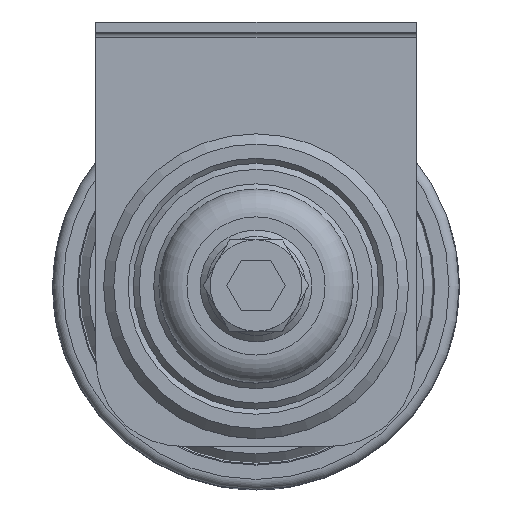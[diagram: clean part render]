
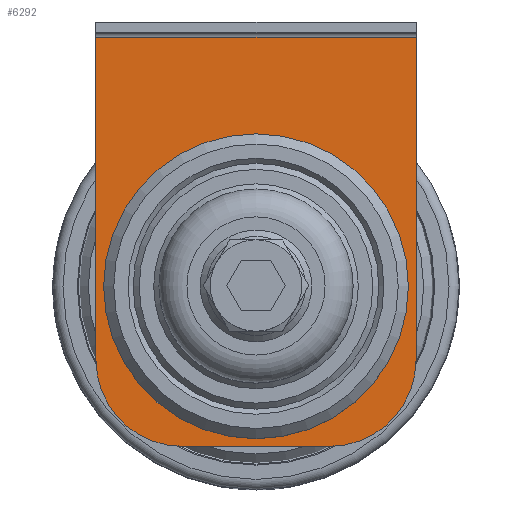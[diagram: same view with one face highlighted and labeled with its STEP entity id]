
A CAD part, top view. The second image highlights one B-rep face of the part: STEP entity #6292.
In plain terms, the highlighted planar face has unit normal (0, 0, 1) as drawn and (-1, 0, 0) by its records, which use the part's own axes.
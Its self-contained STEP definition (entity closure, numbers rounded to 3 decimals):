
#6198=CARTESIAN_POINT('',(21.0,3.,0.0));
#6199=VERTEX_POINT('',#6198);
#6207=CARTESIAN_POINT('',(21.0,3.,-63.));
#6208=VERTEX_POINT('',#6207);
#6209=CARTESIAN_POINT('',(21.0,3.,0.0));
#6210=DIRECTION('',(0.0,0.0,-1.0));
#6211=VECTOR('',#6210,63.);
#6212=LINE('',#6209,#6211);
#6213=EDGE_CURVE('',#6199,#6208,#6212,.T.);
#6233=CARTESIAN_POINT('',(21.,83.5,0.0));
#6234=DIRECTION('',(-1.0,0.0,0.0));
#6235=DIRECTION('',(0.0,0.0,1.0));
#6236=AXIS2_PLACEMENT_3D('',#6233,#6234,#6235);
#6237=PLANE('',#6236);
#6238=ORIENTED_EDGE('',*,*,#6213,.F.);
#6239=CARTESIAN_POINT('',(21.,66.5,0.0));
#6240=VERTEX_POINT('',#6239);
#6241=CARTESIAN_POINT('',(21.,66.5,0.0));
#6242=DIRECTION('',(0.0,-1.0,0.0));
#6243=VECTOR('',#6242,63.5);
#6244=LINE('',#6241,#6243);
#6245=EDGE_CURVE('',#6240,#6199,#6244,.T.);
#6246=ORIENTED_EDGE('',*,*,#6245,.F.);
#6247=CARTESIAN_POINT('',(21.,83.5,-17.0));
#6248=VERTEX_POINT('',#6247);
#6249=CARTESIAN_POINT('',(21.,66.5,-17.0));
#6250=DIRECTION('',(1.0,0.0,0.0));
#6251=DIRECTION('',(0.0,0.707,0.707));
#6252=AXIS2_PLACEMENT_3D('',#6249,#6250,#6251);
#6253=CIRCLE('',#6252,17.);
#6254=EDGE_CURVE('',#6248,#6240,#6253,.T.);
#6255=ORIENTED_EDGE('',*,*,#6254,.F.);
#6256=CARTESIAN_POINT('',(21.,83.5,-46.));
#6257=VERTEX_POINT('',#6256);
#6258=CARTESIAN_POINT('',(21.,83.5,-17.0));
#6259=DIRECTION('',(0.0,0.0,-1.0));
#6260=VECTOR('',#6259,29.);
#6261=LINE('',#6258,#6260);
#6262=EDGE_CURVE('',#6248,#6257,#6261,.T.);
#6263=ORIENTED_EDGE('',*,*,#6262,.T.);
#6264=CARTESIAN_POINT('',(21.,66.5,-63.));
#6265=VERTEX_POINT('',#6264);
#6266=CARTESIAN_POINT('',(21.,66.5,-46.));
#6267=DIRECTION('',(1.,0.0,0.0));
#6268=DIRECTION('',(0.0,0.707,-0.707));
#6269=AXIS2_PLACEMENT_3D('',#6266,#6267,#6268);
#6270=CIRCLE('',#6269,17.);
#6271=EDGE_CURVE('',#6265,#6257,#6270,.T.);
#6272=ORIENTED_EDGE('',*,*,#6271,.F.);
#6273=CARTESIAN_POINT('',(21.,66.5,-63.));
#6274=DIRECTION('',(0.0,-1.0,0.0));
#6275=VECTOR('',#6274,63.5);
#6276=LINE('',#6273,#6275);
#6277=EDGE_CURVE('',#6265,#6208,#6276,.T.);
#6278=ORIENTED_EDGE('',*,*,#6277,.T.);
#6279=EDGE_LOOP('',(#6238,#6246,#6255,#6263,#6272,#6278));
#6280=FACE_OUTER_BOUND('',#6279,.T.);
#6281=CARTESIAN_POINT('',(21.,52.0,-6.5));
#6282=VERTEX_POINT('',#6281);
#6283=CARTESIAN_POINT('',(21.,52.0,-31.5));
#6284=DIRECTION('',(1.0,0.0,0.0));
#6285=DIRECTION('',(0.0,0.0,-1.0));
#6286=AXIS2_PLACEMENT_3D('',#6283,#6284,#6285);
#6287=CIRCLE('',#6286,25.0);
#6288=EDGE_CURVE('',#6282,#6282,#6287,.T.);
#6289=ORIENTED_EDGE('',*,*,#6288,.T.);
#6290=EDGE_LOOP('',(#6289));
#6291=FACE_BOUND('',#6290,.T.);
#6292=ADVANCED_FACE('',(#6280,#6291),#6237,.T.);
